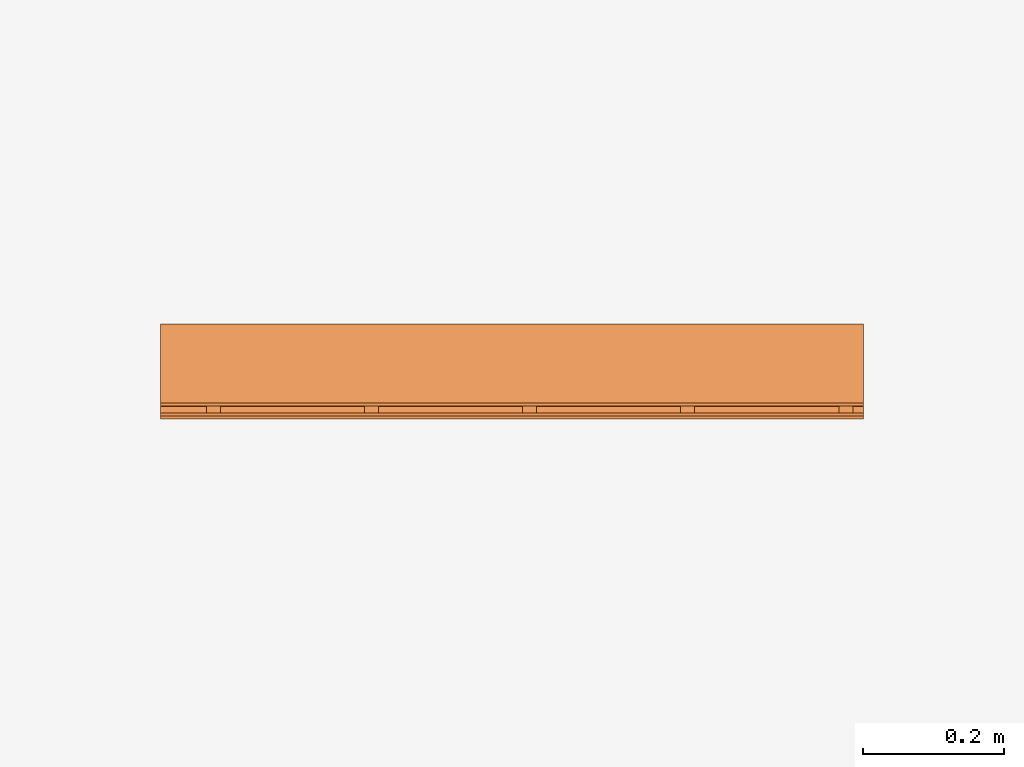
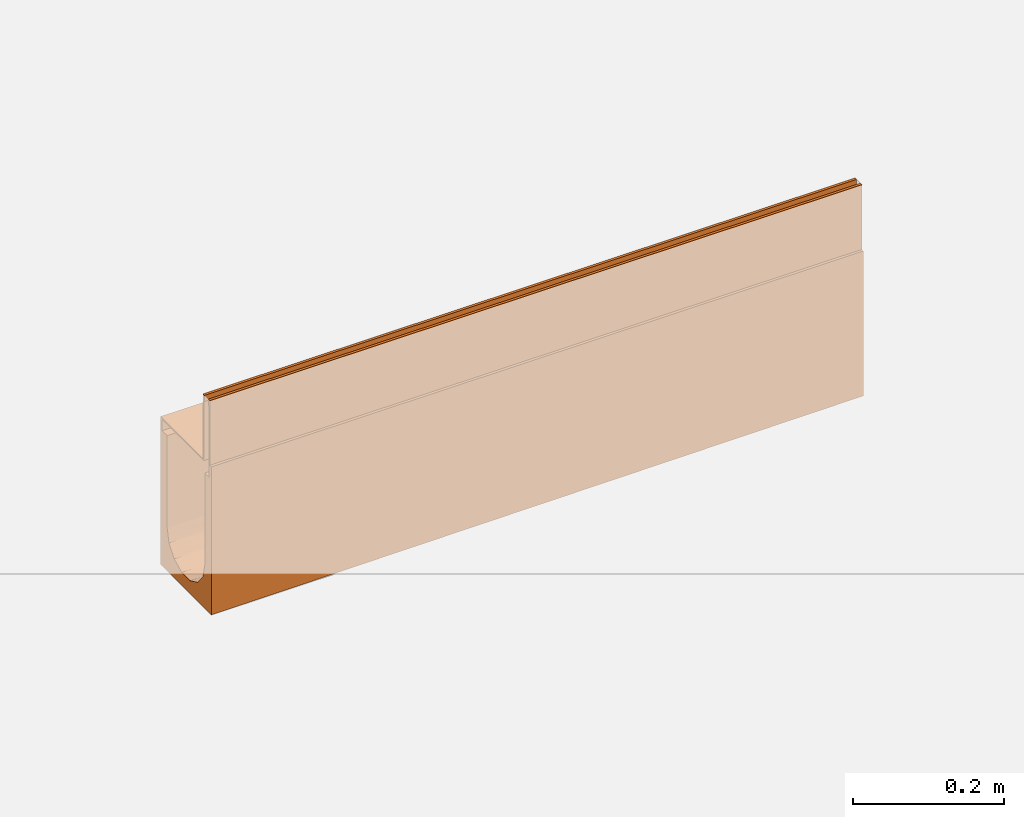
# One storey, part 2 of 2: 1 proxy.
"""IFC2X3 building model written with IfcOpenShell, lengths in millimetres."""

from ifc_helpers import new_model, entity, si_unit, converted_unit, direction, frame, origin, place, context, subcontext, project, spatial, faceted_brep, source, transform, mapped, material, material_list, element, save


model = new_model("IFC2X3")

# Units and contexts
model_context = context("Model", 3, precision=1e-06, world=origin(), true_north=direction((2.0, 6.12303176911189e-17, 1.0)))
context_of_model = context(None, 3, precision=1e-06, world=origin(), true_north=direction((2.0, 6.12303176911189e-17, 1.0)))
body_context = subcontext(model_context, "Body", "Model", "MODEL_VIEW")
ifc_project = project(units=[si_unit("LENGTHUNIT", "METRE", prefix="MILLI"), si_unit("AREAUNIT", "SQUARE_METRE", prefix="MILLI"), si_unit("VOLUMEUNIT", "CUBIC_METRE", prefix="MILLI"), converted_unit("PLANEANGLEUNIT", "DEGREE", entity("IfcRatioMeasure", 0.0174532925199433), si_unit("PLANEANGLEUNIT", "RADIAN"), dimensions=[0, 0, 0, 0, 0, 0, 0]), si_unit("TIMEUNIT", "SECOND")], contexts=[model_context, context_of_model])

# Site, building, storey
site_placement = place(None, origin())
site = spatial("IfcSite", under=ifc_project, at=site_placement, Name="Default", CompositionType="ELEMENT")
building_placement = place(site_placement, origin())
building = spatial("IfcBuilding", under=site, at=building_placement, CompositionType="ELEMENT")
storey_placement = place(building_placement, origin())
storey = spatial("IfcBuildingStorey", under=building, at=storey_placement, Name="Level 1", CompositionType="ELEMENT", Elevation=0.0)

# Proxy
ifc_material_1 = material(Name="Steel, Galvanized")
ifc_material_2 = material(Name="Vienite® Synthetic Resin Concrete")
ifc_material_list = material_list([ifc_material_1, ifc_material_2])
shared_shape = source(origin(), body_context, "Body", "Brep", [
    faceted_brep([(63.249999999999, 15.0, -107.0), (63.249999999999, 17.0, -109.0), (63.249999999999, 33.0, -109.0), (63.249999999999, 35.0, -107.0), (63.249999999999, 17.0, -123.499999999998), (63.249999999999, 15.0, -125.499999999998), (63.249999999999, 33.0, -123.499999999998), (63.249999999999, 35.0, -125.499999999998), (-61.250000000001, 15.0, -125.499999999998), (-61.250000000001, 17.0, -123.499999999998), (-61.250000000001, 33.0, -123.499999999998), (-61.250000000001, 35.0, -125.499999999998), (-61.250000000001, 17.0, -109.0), (-61.250000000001, 15.0, -107.0), (-61.250000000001, 33.0, -109.0), (-61.250000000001, 35.0, -107.0)], [[[0, 1, 2, 3]], [[4, 1, 0, 5]], [[3, 2, 6, 7]], [[6, 4, 5, 7]], [[8, 9, 10, 11]], [[12, 9, 8, 13]], [[11, 10, 14, 15]], [[14, 12, 13, 15]], [[5, 0, 13, 8]], [[7, 5, 8, 11]], [[3, 7, 11, 15]], [[0, 3, 15, 13]], [[1, 4, 9, 12]], [[14, 2, 1, 12]], [[6, 2, 14, 10]], [[9, 4, 6, 10]]]),
    faceted_brep([(-47.2500000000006, 0.0, -10.0), (-47.2500000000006, 0.0, -107.0), (-45.2500000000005, 0.0, -105.0), (-45.2500000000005, 0.0, 0.0), (-49.2500000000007, 0.0, 0.0), (-49.2500000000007, 0.0, -10.0), (63.2499999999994, 0.0, -107.0), (63.2499999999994, 0.0, -105.0), (-45.2500000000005, 1000.0, -105.0), (63.2499999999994, 1000.0, -105.0), (63.2499999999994, 1000.0, -107.0), (-47.2500000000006, 1000.0, -107.0), (-47.2500000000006, 1000.0, -10.0), (-45.2500000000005, 1000.0, 0.0), (-49.2500000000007, 1000.0, -10.0), (-49.2500000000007, 1000.0, 0.0)], [[[0, 1, 2, 3]], [[4, 5, 0, 3]], [[6, 7, 2, 1]], [[8, 9, 10, 11]], [[12, 13, 8, 11]], [[12, 14, 15, 13]], [[0, 5, 14, 12]], [[11, 1, 0, 12]], [[6, 1, 11, 10]], [[9, 7, 6, 10]], [[8, 2, 7, 9]], [[3, 2, 8, 13]], [[15, 4, 3, 13]], [[5, 4, 15, 14]]]),
    faceted_brep([(-59.2500000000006, 1000.0, 0.0), (-59.2500000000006, 1000.0, -10.0), (-61.2500000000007, 1000.0, -10.0), (-63.2500000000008, 1000.0, 0.0), (-63.2500000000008, 1000.0, -125.499999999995), (-61.2500000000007, 1000.0, -125.499999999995), (-61.2500000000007, 0.0, -10.0), (-63.2500000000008, 0.0, 0.0), (-63.2500000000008, 0.0, -125.499999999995), (-61.2500000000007, 0.0, -125.499999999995), (-59.2500000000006, 0.0, 0.0), (-59.2500000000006, 0.0, -10.0)], [[[0, 1, 2, 3]], [[4, 3, 2, 5]], [[6, 7, 8, 9]], [[10, 7, 6, 11]], [[9, 8, 4, 5]], [[6, 9, 5, 2]], [[11, 6, 2, 1]], [[10, 11, 1, 0]], [[3, 7, 10, 0]], [[4, 8, 7, 3]]]),
    faceted_brep([(63.2499999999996, 465.0, -107.0), (63.2499999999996, 467.0, -109.0), (63.2499999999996, 483.0, -109.0), (63.2499999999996, 485.0, -107.0), (63.2499999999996, 467.0, -123.499999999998), (63.2499999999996, 465.0, -125.499999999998), (63.2499999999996, 483.0, -123.499999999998), (63.2499999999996, 485.0, -125.499999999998), (-61.2500000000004, 465.0, -125.499999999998), (-61.2500000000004, 467.0, -123.499999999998), (-61.2500000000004, 483.0, -123.499999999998), (-61.2500000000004, 485.0, -125.499999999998), (-61.2500000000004, 467.0, -109.0), (-61.2500000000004, 465.0, -107.0), (-61.2500000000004, 483.0, -109.0), (-61.2500000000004, 485.0, -107.0)], [[[0, 1, 2, 3]], [[4, 1, 0, 5]], [[3, 2, 6, 7]], [[6, 4, 5, 7]], [[8, 9, 10, 11]], [[12, 9, 8, 13]], [[11, 10, 14, 15]], [[14, 12, 13, 15]], [[5, 0, 13, 8]], [[7, 5, 8, 11]], [[3, 7, 11, 15]], [[0, 3, 15, 13]], [[1, 4, 9, 12]], [[2, 1, 12, 14]], [[6, 2, 14, 10]], [[4, 6, 10, 9]]]),
    faceted_brep([(63.2499999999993, 240.0, -107.0), (63.2499999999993, 242.0, -109.0), (63.2499999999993, 258.0, -109.0), (63.2499999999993, 260.0, -107.0), (63.2499999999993, 242.0, -123.499999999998), (63.2499999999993, 240.0, -125.499999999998), (63.2499999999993, 258.0, -123.499999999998), (63.2499999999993, 260.0, -125.499999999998), (-61.2500000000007, 240.0, -125.499999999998), (-61.2500000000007, 242.0, -123.499999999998), (-61.2500000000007, 258.0, -123.499999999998), (-61.2500000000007, 260.0, -125.499999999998), (-61.2500000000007, 242.0, -109.0), (-61.2500000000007, 240.0, -107.0), (-61.2500000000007, 258.0, -109.0), (-61.2500000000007, 260.0, -107.0)], [[[0, 1, 2, 3]], [[4, 1, 0, 5]], [[3, 2, 6, 7]], [[6, 4, 5, 7]], [[8, 9, 10, 11]], [[12, 9, 8, 13]], [[11, 10, 14, 15]], [[14, 12, 13, 15]], [[5, 0, 13, 8]], [[7, 5, 8, 11]], [[3, 7, 11, 15]], [[0, 3, 15, 13]], [[1, 4, 9, 12]], [[2, 1, 12, 14]], [[6, 2, 14, 10]], [[4, 6, 10, 9]]]),
    faceted_brep([(63.2500000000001, 915.0, -107.0), (63.2500000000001, 917.0, -109.0), (63.2500000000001, 933.0, -109.0), (63.2500000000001, 935.0, -107.0), (63.2500000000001, 917.0, -123.499999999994), (63.2500000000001, 915.0, -125.499999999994), (63.2500000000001, 933.0, -123.499999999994), (63.2500000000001, 935.0, -125.499999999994), (-61.2499999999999, 915.0, -125.499999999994), (-61.2499999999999, 917.0, -123.499999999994), (-61.2499999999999, 933.0, -123.499999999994), (-61.2499999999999, 935.0, -125.499999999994), (-61.2499999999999, 917.0, -109.0), (-61.2499999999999, 915.0, -107.0), (-61.2499999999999, 933.0, -109.0), (-61.2499999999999, 935.0, -107.0)], [[[0, 1, 2, 3]], [[4, 1, 0, 5]], [[3, 2, 6, 7]], [[6, 4, 5, 7]], [[8, 9, 10, 11]], [[12, 9, 8, 13]], [[11, 10, 14, 15]], [[14, 12, 13, 15]], [[5, 0, 13, 8]], [[11, 7, 5, 8]], [[3, 7, 11, 15]], [[13, 0, 3, 15]], [[1, 4, 9, 12]], [[2, 1, 12, 14]], [[6, 2, 14, 10]], [[4, 6, 10, 9]]]),
    faceted_brep([(63.2499999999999, 690.0, -107.0), (63.2499999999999, 692.0, -109.0), (63.2499999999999, 708.0, -109.0), (63.2499999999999, 710.0, -107.0), (63.2499999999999, 692.0, -123.499999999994), (63.2499999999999, 690.0, -125.499999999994), (63.2499999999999, 708.0, -123.499999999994), (63.2499999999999, 710.0, -125.499999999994), (-61.2500000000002, 690.0, -125.499999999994), (-61.2500000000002, 692.0, -123.499999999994), (-61.2500000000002, 708.0, -123.499999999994), (-61.2500000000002, 710.0, -125.499999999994), (-61.2500000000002, 692.0, -109.0), (-61.2500000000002, 690.0, -107.0), (-61.2500000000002, 708.0, -109.0), (-61.2500000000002, 710.0, -107.0)], [[[0, 1, 2, 3]], [[4, 1, 0, 5]], [[3, 2, 6, 7]], [[6, 4, 5, 7]], [[8, 9, 10, 11]], [[12, 9, 8, 13]], [[11, 10, 14, 15]], [[14, 12, 13, 15]], [[5, 0, 13, 8]], [[11, 7, 5, 8]], [[3, 7, 11, 15]], [[13, 0, 3, 15]], [[1, 4, 9, 12]], [[2, 1, 12, 14]], [[6, 2, 14, 10]], [[4, 6, 10, 9]]]),
    faceted_brep([(-67.4999999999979, 1000.0, -105.0), (-63.2499999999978, 1000.0, -105.0), (-63.2499999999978, 1000.0, -125.500000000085), (-67.4999999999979, 1000.0, -345.0), (-50.0, 1000.0, -125.500000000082), (-50.0, 1000.0, -275.0), (-47.5242216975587, 1000.0, -285.847093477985), (-45.0484433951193, 1000.0, -296.694186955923), (-31.1744900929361, 1000.0, -314.091574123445), (-21.1502683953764, 1000.0, -318.91898486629), (-11.1260466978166, 1000.0, -323.746395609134), (-38.1114667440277, 1000.0, -305.392880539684), (0.0, 1000.0, -323.746395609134), (11.126046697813, 1000.0, -323.746395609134), (50.0, 1000.0, -275.0), (50.0, 1000.0, -125.500000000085), (63.249999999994, 1000.0, -125.500000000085), (67.500000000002, 1000.0, -345.0), (63.249999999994, 1000.0, -105.0), (67.500000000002, 1000.0, -105.0), (21.1502683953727, 1000.0, -318.91898486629), (31.1744900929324, 1000.0, -314.091574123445), (45.0484433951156, 1000.0, -296.694186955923), (47.5242216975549, 1000.0, -285.847093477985), (38.111466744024, 1000.0, -305.392880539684), (-67.5000000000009, 0.0, -340.0), (-45.0484433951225, 0.0, -291.694186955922), (-46.5542373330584, 0.0, -285.096872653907), (-50.0, 0.0, -270.0), (-31.1744900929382, 0.0, -309.091574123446), (-38.1114667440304, 0.0, -300.392880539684), (-11.1260466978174, 0.0, -318.746395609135), (-21.1502683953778, 0.0, -313.91898486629), (11.1260466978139, 0.0, -318.746395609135), (0.0, 0.0, -318.746395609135), (67.4999999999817, 0.0, -340.0), (-63.2499999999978, 0.0, -125.500000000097), (-63.2499999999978, 0.0, -105.0), (-67.5000000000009, 0.0, -105.0), (-50.0, 0.0, -125.500000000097), (31.1744900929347, 0.0, -309.091574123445), (21.1502683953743, 0.0, -313.91898486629), (50.0, 0.0, -270.0), (46.5542371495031, 0.0, -285.096873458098), (45.0484433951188, 0.0, -291.694186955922), (38.1114667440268, 0.0, -300.392880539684), (63.2500000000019, 0.0, -125.500000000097), (50.0, 0.0, -125.500000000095), (67.4999999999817, 0.0, -105.0), (63.2500000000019, 0.0, -105.0), (-50.0, 250.000013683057, -271.25000006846), (-35.5430016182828, 477.55479373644, -307.554449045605), (-39.0915746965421, 301.904841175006, -302.684013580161), (-30.4065854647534, 315.866317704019, -311.271138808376), (39.0915767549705, 653.204744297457, -304.44051051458), (43.1307072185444, 488.864082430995, -297.737443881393), (44.2106003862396, 635.514288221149, -296.531860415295), (-39.0915747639, 653.204746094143, -304.440513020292), (-29.696093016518, 646.565597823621, -313.458964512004), (-47.3876306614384, 374.999991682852, -287.82531219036), (-48.89171460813, 518.387005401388, -283.060948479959), (-2.91588081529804e-06, 301.904832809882, -321.509524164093), (-10.9684170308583, 305.042894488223, -320.307320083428), (-5.5982252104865, 150.952413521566, -320.440372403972), (12.0741057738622, 315.866299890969, -320.099594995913), (5.33371147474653, 477.554791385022, -322.10247522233), (35.3553400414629, 150.952387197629, -306.110100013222), (-41.8233658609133, 146.584549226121, -298.133763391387), (42.1728888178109, 829.135588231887, -301.005451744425), (47.0016510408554, 843.632235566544, -291.272333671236), (-50.0, 749.999986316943, -273.749999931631), (-47.0016499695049, 843.632222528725, -291.27233655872), (-21.6941880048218, 209.065851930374, -316.093772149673), (-35.3553394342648, 150.952420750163, -306.110100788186), (-34.4525207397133, 816.145858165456, -310.316399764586), (-25.646806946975, 806.214865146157, -316.952412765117), (21.6941814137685, 500.0, -317.548446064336), (29.6960925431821, 646.565642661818, -313.458965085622), (16.1554098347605, 747.818208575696, -321.057192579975), (-3.27550310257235e-06, 653.204751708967, -323.266023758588), (-8.54111809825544, 477.617179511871, -321.653178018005), (21.6941852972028, 209.065841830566, -316.093773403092), (-46.4228776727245, 186.188946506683, -289.502870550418), (34.4525215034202, 816.145876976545, -310.316399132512), (49.2918467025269, 134.881431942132, -279.0597424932), (47.3876313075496, 374.999975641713, -287.825310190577), (46.4228780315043, 186.188933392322, -289.502869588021), (-50.0, 499.999972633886, -272.499999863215), (39.0915763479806, 301.904795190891, -302.684011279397), (41.8233665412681, 146.584526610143, -298.133762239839), (25.6468067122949, 806.214870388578, -316.952412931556), (-5.38536224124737, 826.602379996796, -323.842144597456), (-16.1554121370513, 747.81816965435, -321.057191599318), (35.5430053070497, 477.554758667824, -307.554445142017), (-42.1728873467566, 829.135597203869, -301.005454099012), (5.59822218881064, 150.952412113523, -320.440372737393), (30.4065855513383, 315.866251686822, -311.271138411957), (-43.1307054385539, 488.864104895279, -297.737447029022), (-44.2105988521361, 635.514296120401, -296.531863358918), (-49.2918465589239, 134.881438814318, -279.059743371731), (-47.7236140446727, 671.453379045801, -288.272248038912), (48.8917149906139, 518.386993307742, -283.060946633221), (50.0, 250.000027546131, -271.250000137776), (50.0, 499.999944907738, -272.499999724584), (50.0, 749.999972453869, -273.749999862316), (47.7236147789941, 671.453375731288, -288.272245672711), (-22.9273943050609, 354.532924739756, -316.206149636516), (-21.6941890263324, 500.0, -317.548442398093), (5.80423086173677, 807.818012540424, -323.701056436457), (22.9273914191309, 354.532889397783, -316.206150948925)], [[[0, 1, 2, 3]], [[2, 4, 5, 3]], [[3, 5, 6, 7]], [[3, 8, 9, 10]], [[3, 7, 11, 8]], [[3, 10, 12, 13]], [[14, 15, 16, 17]], [[16, 18, 19, 17]], [[17, 13, 20, 21]], [[17, 22, 23, 14]], [[17, 21, 24, 22]], [[13, 17, 3]], [[25, 26, 27, 28]], [[25, 29, 30, 26]], [[25, 31, 32, 29]], [[33, 34, 25, 35]], [[36, 37, 38, 25]], [[28, 39, 36, 25]], [[35, 40, 41, 33]], [[35, 42, 43, 44]], [[35, 44, 45, 40]], [[46, 47, 42, 35]], [[48, 49, 46, 35]], [[1, 37, 36, 2]], [[0, 38, 37, 1]], [[0, 3, 25, 38]], [[3, 17, 35, 25]], [[19, 48, 35, 17]], [[18, 49, 48, 19]], [[16, 46, 49, 18]], [[16, 15, 47, 46]], [[4, 39, 28, 50]], [[2, 36, 39, 4]], [[51, 52, 53]], [[54, 55, 56]], [[57, 51, 58]], [[59, 60, 50]], [[61, 62, 63]], [[61, 64, 65]], [[40, 45, 66]], [[30, 67, 26]], [[68, 69, 22]], [[70, 71, 6]], [[29, 72, 73]], [[74, 75, 8]], [[76, 77, 78]], [[65, 79, 80]], [[66, 81, 40]], [[27, 26, 82]], [[24, 83, 68]], [[84, 85, 86]], [[87, 50, 60, 70]], [[88, 66, 89]], [[58, 75, 74]], [[83, 90, 77]], [[91, 10, 92]], [[76, 93, 77]], [[54, 93, 55]], [[94, 57, 74]], [[30, 73, 67]], [[63, 72, 31]], [[61, 63, 95]], [[72, 53, 73]], [[45, 89, 66]], [[93, 76, 96]], [[97, 98, 60]], [[27, 82, 99]], [[52, 51, 97]], [[98, 94, 71]], [[98, 71, 100]], [[101, 102, 103, 104]], [[102, 101, 85]], [[84, 86, 43]], [[104, 69, 105]], [[69, 68, 56]], [[28, 27, 99]], [[52, 59, 82]], [[99, 59, 50]], [[72, 29, 32, 31]], [[29, 73, 30]], [[67, 52, 82]], [[95, 34, 33]], [[73, 53, 52]], [[72, 106, 53]], [[107, 58, 51]], [[107, 51, 53]], [[97, 51, 57]], [[58, 107, 92]], [[74, 57, 58]], [[80, 92, 107]], [[79, 108, 91]], [[98, 97, 57]], [[52, 97, 59]], [[52, 67, 73]], [[26, 67, 82]], [[92, 10, 9]], [[74, 11, 94]], [[92, 9, 75]], [[94, 7, 71]], [[75, 58, 92]], [[59, 99, 82]], [[28, 99, 50]], [[11, 74, 8]], [[11, 7, 94]], [[8, 75, 9]], [[70, 6, 5]], [[71, 70, 100]], [[71, 7, 6]], [[43, 86, 44]], [[42, 102, 84]], [[88, 86, 85]], [[42, 84, 43]], [[85, 84, 102]], [[81, 66, 96]], [[86, 89, 44]], [[81, 33, 41, 40]], [[96, 66, 88]], [[95, 64, 61]], [[93, 96, 88]], [[109, 81, 96]], [[55, 88, 85]], [[93, 54, 77]], [[54, 83, 77]], [[90, 78, 77]], [[12, 91, 108]], [[65, 78, 79]], [[88, 55, 93]], [[55, 85, 101]], [[44, 89, 45]], [[88, 89, 86]], [[68, 83, 54]], [[20, 90, 21]], [[68, 54, 56]], [[24, 21, 83]], [[78, 20, 13]], [[68, 22, 24]], [[21, 90, 83]], [[20, 78, 90]], [[101, 104, 105]], [[104, 23, 69]], [[23, 104, 14]], [[91, 92, 79]], [[23, 22, 69]], [[63, 31, 34]], [[33, 81, 95]], [[64, 95, 81]], [[109, 64, 81]], [[76, 78, 65]], [[76, 65, 64]], [[79, 92, 80]], [[107, 106, 62]], [[61, 65, 80]], [[95, 63, 34]], [[61, 80, 62]], [[107, 62, 80]], [[72, 63, 62]], [[97, 60, 59]], [[70, 60, 100]], [[101, 105, 56]], [[62, 106, 72]], [[107, 53, 106]], [[94, 98, 57]], [[60, 98, 100]], [[96, 76, 109]], [[64, 109, 76]], [[101, 56, 55]], [[56, 105, 69]], [[108, 79, 78]], [[10, 91, 12]], [[78, 13, 108]], [[12, 108, 13]], [[15, 14, 104, 103]], [[47, 15, 42]], [[25, 34, 31]], [[4, 50, 87, 70]], [[4, 70, 5]], [[15, 103, 102, 42]]]),
])
proxy_placement = place(storey_placement, frame((143.656586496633, 99.9218925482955, 0.0), z_axis=(0.0, 0.0, 1.0), x_axis=(0.0, 1.0, 0.0)))
element("IfcBuildingElementProxy", 1, at=proxy_placement, inside=storey, material=ifc_material_list, Name="Civil-Drainage-Channel-ACO-MultiDrain-M100D-Brickslot-Channel-System:23018 - No 18 Sloping Channel - 1000mm LG - Invert Depth 215/220mm:23018 - No 18 Sloping Channel - 1000mm LG - Invert Depth 215/220mm", ObjectType="23018 - No 18 Sloping Channel - 1000mm LG - Invert Depth 215/220mm", CompositionType="ELEMENT", context=body_context, shape_type="MappedRepresentation", body=[
    mapped(shared_shape, transform((0.0, 0.0, 0.0), scale=1.0)),
])

save(model, "model.ifc")
